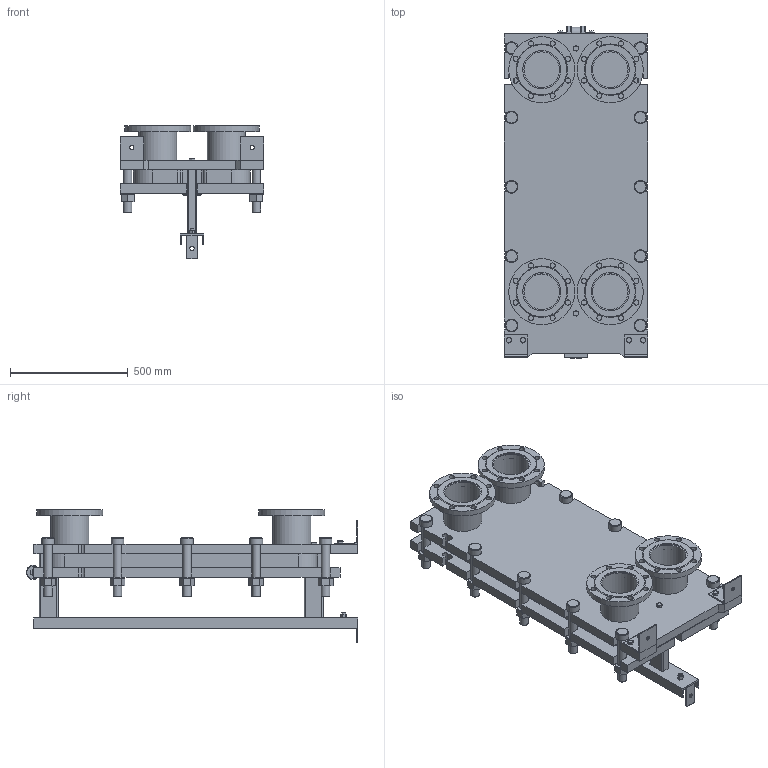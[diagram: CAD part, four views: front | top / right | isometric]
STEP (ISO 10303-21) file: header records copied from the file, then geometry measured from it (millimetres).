
FILE_DESCRIPTION(/* description */ (''),/* implementation_level */ '2;1');
FILE_NAME(/* name */ 'C:\Users\zhuro\Desktop\ENCO\TO\ЭН-041\ЭН-0,5-041-17-1.stp',/* time_stamp */ '2022-06-06T10:49:22+03:00',/* author */ ('zhuro'),/* organization */ (''),/* preprocessor_version */ 'ST-DEVELOPER v18.1',/* originating_system */ 'Autodesk Inventor 2022',/* authorisation */ '');
FILE_SCHEMA (('AUTOMOTIVE_DESIGN { 1 0 10303 214 3 1 1 }'));
Length unit declared in the file: millimetre
Products named in the file (1): ЭН-0,5-041-17-1
Bounding box: 610 x 1406.5 x 567.5 mm (x, y, z)
Volume: 107627475.9 mm3; surface area: 7194429.2 mm2
Topology: 52 solids, 52 shells, 711 faces, 1696 edges, 1094 vertices
Faces by surface type: plane 487, cylinder 177, cone 41, torus 6
Full cylindrical faces by diameter (mm): 8 x4, 10 x2, 16 x8, 18 x3, 22 x32, 36 x24, 50 x1, 54 x10, 60 x12, 151 x4, 161 x8, 280 x4
Entity records: 22667 total; most frequent: CARTESIAN_POINT 5230, DIRECTION 3644, ORIENTED_EDGE 3392, EDGE_CURVE 1696, AXIS2_PLACEMENT_3D 1272, LINE 1100, VECTOR 1100, VERTEX_POINT 1094
